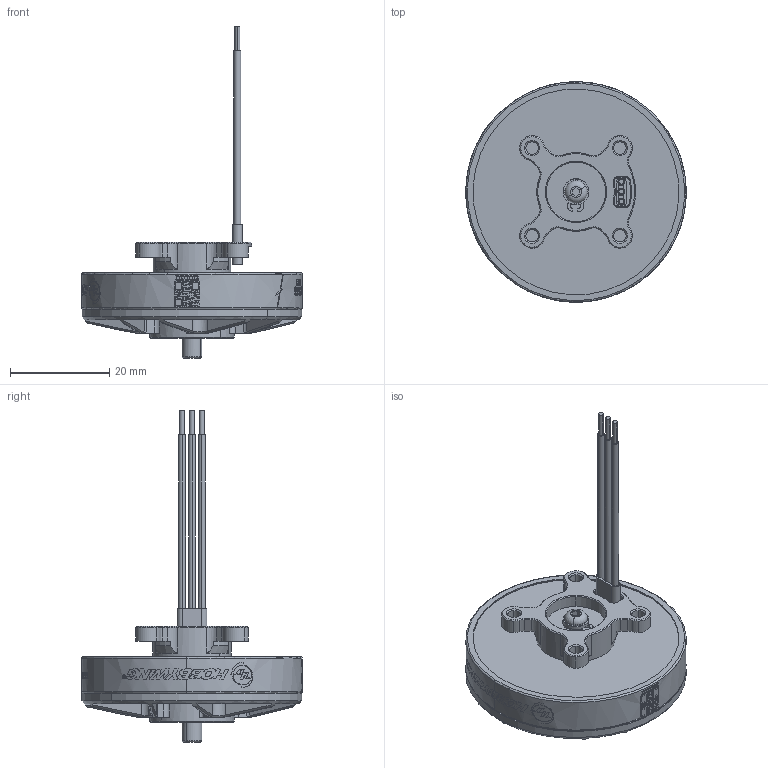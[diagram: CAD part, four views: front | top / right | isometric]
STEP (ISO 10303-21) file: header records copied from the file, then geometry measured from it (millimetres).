
FILE_DESCRIPTION (( 'STEP AP203' ), '1' );
FILE_NAME ('HM-4006-UL-萇儂3D-勤俋-240116.STEP', '2024-01-16T05:39:35', ( '' ), ( '' ), 'SwSTEP 2.0', 'SolidWorks 2021', '' );
FILE_SCHEMA (( 'CONFIG_CONTROL_DESIGN' ));
Products named in the file (1): HM-4006-UL-萇儂3D-勤俋-240116
Bounding box: 44.4 x 44.41 x 66.9 mm (x, y, z)
Volume: 15108 mm3; surface area: 8292.3 mm2
Topology: 3 solids, 63 shells, 2031 faces, 5268 edges, 3440 vertices
Faces by surface type: plane 872, bspline 624, cylinder 359, cone 154, torus 22
Entity records: 80258 total; most frequent: CARTESIAN_POINT 35563, ORIENTED_EDGE 10536, DIRECTION 7164, EDGE_CURVE 5268, VERTEX_POINT 3440, AXIS2_PLACEMENT_3D 2716, B_SPLINE_CURVE_WITH_KNOTS 2228, EDGE_LOOP 2152
